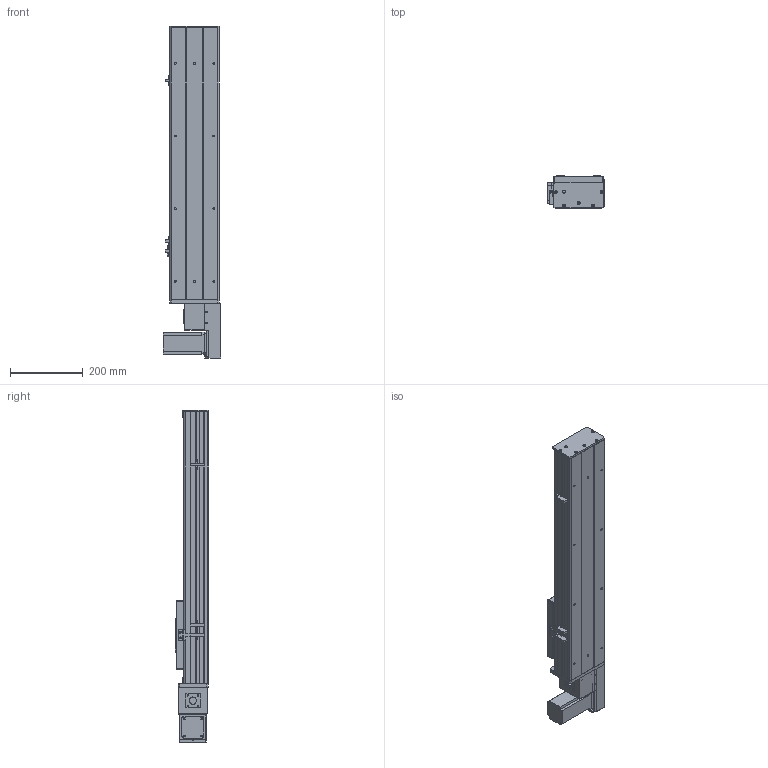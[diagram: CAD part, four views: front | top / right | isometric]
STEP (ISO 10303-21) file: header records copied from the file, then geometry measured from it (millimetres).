
FILE_DESCRIPTION (( 'STEP AP203' ), '1' );
FILE_NAME ('Y135CB-D90-S450-BL-P400W.STEP', '2020-02-17T08:26:10', ( '微软用户' ), ( '微软中国' ), 'SwSTEP 2.0', 'SolidWorks 2017', '' );
FILE_SCHEMA (( 'CONFIG_CONTROL_DESIGN' ));
Length unit declared in the file: millimetre
Products named in the file (18): 0B-萇儂楊擘啣; Y135CB-耜裔; Y135CB-D90-S450-BL-P400W; san松下电机400不带刹车----; 135CB---遴掛极.-; 5CB --掛极耜裔啣-; 35CB---喘謫眊楊擘啣; C-詩湍揤踡え-陔; Y10B--々湍喘謫眊--666; 135CB--詩湍-CE; Y10B-耜蚾蟀諉啣----; Y100-135俋离換覜ん--; Y俋欶BR----; Y135C-陔俋离換覜結え-; 0B-埴倛裔啣; 5C--俋欶; 0B-源倛裔啣; C-雄赽釱--
Assembly tree (21 placements, depth 2):
  Y135CB-D90-S450-BL-P400W
    Y135CB-耜裔
    135CB---遴掛极.-
    35CB---喘謫眊楊擘啣
    Y10B--々湍喘謫眊--666
    Y10B-耜蚾蟀諉啣----
    Y俋欶BR----
    0B-埴倛裔啣
    0B-源倛裔啣
    0B-萇儂楊擘啣
    san松下电机400不带刹车----
    5CB --掛极耜裔啣-  x2
    C-詩湍揤踡え-陔  x2
    135CB--詩湍-CE
    Y100-135俋离換覜ん--  x3
    Y135C-陔俋离換覜結え-
    5C--俋欶
    C-雄赽釱--
Bounding box: 157.5 x 91 x 914.5 mm (x, y, z)
Volume: 2959058.1 mm3; surface area: 1143912.3 mm2
Topology: 21 solids, 21 shells, 933 faces, 2473 edges, 1638 vertices
Faces by surface type: cylinder 459, plane 458, cone 16
Entity records: 28735 total; most frequent: DIRECTION 4769, CARTESIAN_POINT 4680, ORIENTED_EDGE 4422, EDGE_CURVE 2211, AXIS2_PLACEMENT_3D 1731, VERTEX_POINT 1466, LINE 1307, VECTOR 1307
